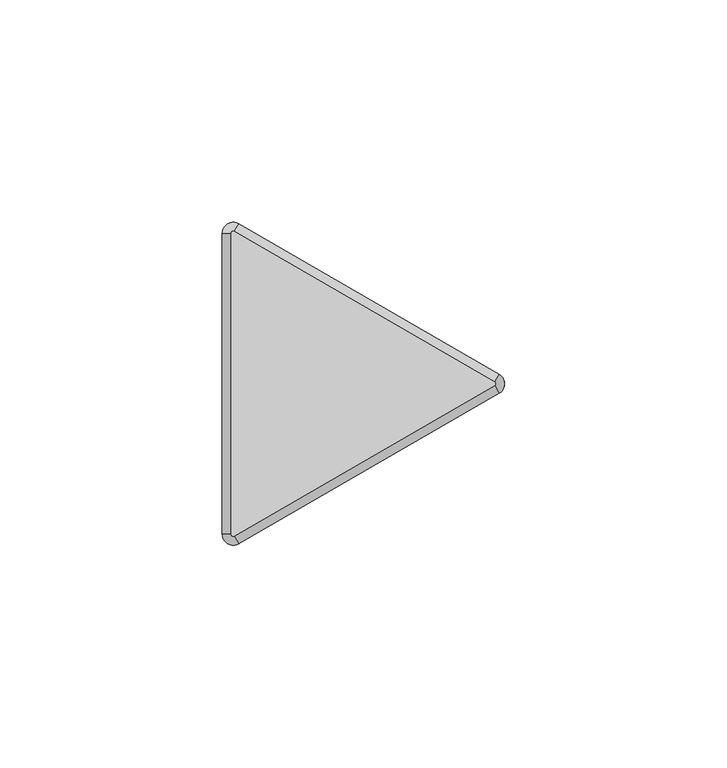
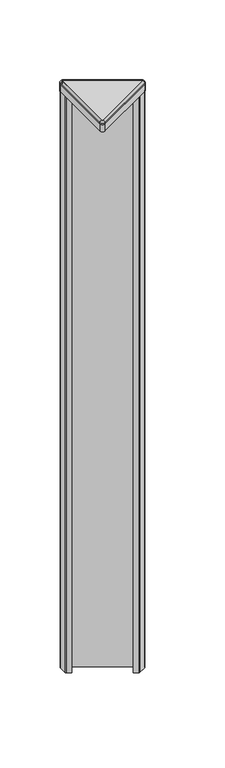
"""IFC4 building model written with IfcOpenShell, lengths in millimetres: furniture geometry, Steelcase - Answer Solution - Panel - 120deg Change-of-Height Trim - Thin : V Corner - 24H for 84H App."""

from ifc_helpers import new_model, si_unit, point, frame, frame_2d, origin, place, context, project, spatial, polyline, circle_curve, ellipse_curve, trimmed, segment, composite_curve, outline, extrude, source, transform, mapped, element, save
from ifc_brep_helpers import plane_surface, cylinder_surface, revolved_surface, advanced_brep


def furniture_e0f52351(model_context):
    return source(origin(), model_context, "Body", "SolidModel", [
        advanced_brep(
        [(-10.518645, -37.3335529, 2138.0628978), (-14.2052101, -35.2051135, 2138.0628978), (-14.2052101, -35.2051135, 2137.1164663), (-10.518645, -37.3335529, 2137.1164663), (-11.46175, -35.7000471, 2139.95), (-12.319, -35.2051135, 2139.95), (-11.46175, -35.7000471, 2137.1164663), (-12.319, -35.2051135, 2137.1164663), (48.0429908, -3.5229767, 2137.1164663), (48.0429908, -3.5229767, 2138.0628978), (47.0998858, -1.8894709, 2139.95), (47.0998858, -1.8894709, 2137.1164663), (48.0429908, 0.733902, 2138.0628978), (48.0429908, 0.733902, 2137.1164663), (47.0998858, -0.8996038, 2139.95), (47.0998858, -0.8996038, 2137.1164663), (-10.518645, 34.5444782, 2137.1164663), (-14.2052101, 32.4160388, 2137.1164663), (-11.46175, 32.9109723, 2137.1164663), (-12.319, 32.4160388, 2137.1164663), (-10.518645, 34.5444782, 2138.0628978), (-11.46175, 32.9109723, 2139.95), (-14.2052101, 32.4160388, 2138.0628978), (-12.319, 32.4160388, 2139.95)],
        [
            (0, 1, circle_curve(frame((-11.7475, -35.2051135, 2138.0628978), z_axis=(0.0, 0.0, -1.0), x_axis=(-1.0, 0.0, 0.0)), 2.4577101)),
            (1, 2),
            (2, 3, circle_curve(frame((-11.7475, -35.2051135, 2137.1164663), z_axis=(0.0, 0.0, 1.0), x_axis=(-1.0, 0.0, 0.0)), 2.4577101)),
            (3, 0),
            (4, 5, circle_curve(frame((-11.7475, -35.2051135, 2139.95), z_axis=(0.0, 0.0, -1.0), x_axis=(-1.0, 0.0, 0.0)), 0.5715)),
            (5, 1, circle_curve(frame((-12.3181076, -35.2051135, 2138.0628978), z_axis=(0.0, -1.0, 0.0), x_axis=(1.0, 0.0, 0.0)), 1.8871024)),
            (0, 4, circle_curve(frame((-11.4621962, -35.6992743, 2138.0628978), z_axis=(-0.8660254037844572, -0.49999999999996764, 0.0), x_axis=(-0.49999999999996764, 0.8660254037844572, 0.0)), 1.8871024)),
            (6, 7, circle_curve(frame((-11.7475, -35.2051135, 2137.1164663), z_axis=(0.0, 0.0, -1.0), x_axis=(-1.0, 0.0, 0.0)), 0.5715)),
            (7, 5),
            (4, 6),
            (3, 8),
            (8, 9),
            (9, 0),
            (9, 10, circle_curve(frame((47.0994396, -1.8886981, 2138.0628978), z_axis=(-0.8660254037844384, -0.5000000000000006, 0.0), x_axis=(-0.5000000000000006, 0.8660254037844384, 0.0)), 1.8871024)),
            (10, 4),
            (10, 11),
            (11, 6),
            (12, 9, circle_curve(frame((46.8141358, -1.3945374, 2138.0628978), z_axis=(0.0, 0.0, -1.0), x_axis=(0.4999999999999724, -0.8660254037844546, 0.0)), 2.4577101)),
            (8, 13, circle_curve(frame((46.8141358, -1.3945374, 2137.1164663), z_axis=(0.0, 0.0, 1.0), x_axis=(0.4999999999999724, -0.8660254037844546, 0.0)), 2.4577101)),
            (13, 12),
            (14, 10, circle_curve(frame((46.8141358, -1.3945374, 2139.95), z_axis=(0.0, 0.0, -1.0), x_axis=(0.4999999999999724, -0.8660254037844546, 0.0)), 0.5715)),
            (12, 14, circle_curve(frame((47.0994396, -0.9003766, 2138.0628978), z_axis=(0.8660254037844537, -0.49999999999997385, 0.0), x_axis=(-0.49999999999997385, -0.8660254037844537, 0.0)), 1.8871024)),
            (15, 11, circle_curve(frame((46.8141358, -1.3945374, 2137.1164663), z_axis=(0.0, 0.0, -1.0), x_axis=(0.4999999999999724, -0.8660254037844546, 0.0)), 0.5715)),
            (14, 15),
            (16, 13),
            (2, 17),
            (17, 16, circle_curve(frame((-11.7475, 32.4160388, 2137.1164663), z_axis=(0.0, 0.0, -1.0), x_axis=(0.500000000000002, 0.8660254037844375, 0.0)), 2.4577101)),
            (15, 18),
            (18, 19, circle_curve(frame((-11.7475, 32.4160388, 2137.1164663), z_axis=(0.0, 0.0, 1.0), x_axis=(0.500000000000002, 0.8660254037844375, 0.0)), 0.5715)),
            (19, 7),
            (16, 20),
            (20, 12),
            (20, 21, circle_curve(frame((-11.4621962, 32.9101995, 2138.0628978), z_axis=(0.8660254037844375, -0.5000000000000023, 0.0), x_axis=(-0.5000000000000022, -0.8660254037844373, 0.0)), 1.8871024)),
            (21, 14),
            (21, 18),
            (22, 20, circle_curve(frame((-11.7475, 32.4160388, 2138.0628978), z_axis=(0.0, 0.0, -1.0), x_axis=(0.500000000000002, 0.8660254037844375, 0.0)), 2.4577101)),
            (17, 22),
            (23, 21, circle_curve(frame((-11.7475, 32.4160388, 2139.95), z_axis=(0.0, 0.0, -1.0), x_axis=(0.500000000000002, 0.8660254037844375, 0.0)), 0.5715)),
            (22, 23, circle_curve(frame((-12.3181076, 32.4160388, 2138.0628978), z_axis=(0.0, 1.0, 0.0), x_axis=(1.0, 0.0, 0.0)), 1.8871024)),
            (23, 19),
            (1, 22),
            (5, 23),
        ],
        [
            cylinder_surface(frame((-11.7475, -35.2051135, 0.0), z_axis=(0.0, 0.0, 1.0), x_axis=(-1.0, 0.0, 0.0)), 2.4577101),
            revolved_surface(trimmed(ellipse_curve(frame((-12.3181076, -35.2051135, 2138.0628978), z_axis=(0.0, 1.0, 0.0), x_axis=(1.0, 0.0, 0.0)), 1.8871024, 1.8871024), [point((-14.2052101, -35.2051135, 2138.0628978))], [point((-12.319, -35.2051135, 2139.95))], True, "CARTESIAN"), (-11.7475, -35.2051135, 0.0), (0.0, 0.0, 1.0)),
            revolved_surface(polyline([(-12.319, -35.2051135, 2139.95), (-12.319, -35.2051135, 2137.1164663)]), (-11.7475, -35.2051135, 0.0), (0.0, 0.0, 1.0)),
            plane_surface(frame((-10.518645, -37.3335529, 2137.1164663), z_axis=(0.49999999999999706, -0.8660254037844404, 0.0), x_axis=(0.8660254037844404, 0.49999999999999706, 0.0))),
            cylinder_surface(frame((-11.4621962, -35.6992743, 2138.0628978), z_axis=(-0.8660254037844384, -0.5000000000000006, 0.0), x_axis=(-0.5000000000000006, 0.8660254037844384, 0.0)), 1.8871024),
            plane_surface(frame((-11.46175, -35.7000471, 2139.95), z_axis=(-0.500000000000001, 0.8660254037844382, 0.0), x_axis=(0.8660254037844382, 0.500000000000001, 0.0))),
            cylinder_surface(frame((46.8141358, -1.3945374, 0.0), z_axis=(0.0, 0.0, 1.0), x_axis=(0.4999999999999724, -0.8660254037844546, 0.0)), 2.4577101),
            revolved_surface(trimmed(ellipse_curve(frame((47.0994396, -1.8886981, 2138.0628978), z_axis=(-0.8660254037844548, -0.499999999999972, 0.0), x_axis=(-0.499999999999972, 0.8660254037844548, 0.0)), 1.8871024, 1.8871024), [point((48.0429908, -3.5229767, 2138.0628978))], [point((47.0998858, -1.8894709, 2139.95))], True, "CARTESIAN"), (46.8141358, -1.3945374, 0.0), (0.0, 0.0, 1.0)),
            revolved_surface(polyline([(47.09988579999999, -1.8894709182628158, 2139.95), (47.09988579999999, -1.8894709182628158, 2137.1164663)]), (46.8141358, -1.3945374, 0.0), (0.0, 0.0, 1.0)),
            plane_surface(frame((47.0998858, -0.8996038, 2137.1164663), z_axis=(0.0, 0.0, -1.0), x_axis=(-0.8660254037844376, 0.5000000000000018, 0.0))),
            plane_surface(frame((48.0429908, 0.733902, 2137.1164663), z_axis=(0.49999999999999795, 0.8660254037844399, 0.0), x_axis=(-0.8660254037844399, 0.49999999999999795, 0.0))),
            cylinder_surface(frame((47.0994396, -0.9003766, 2138.0628978), z_axis=(0.8660254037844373, -0.5000000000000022, 0.0), x_axis=(-0.5000000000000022, -0.8660254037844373, 0.0)), 1.8871024),
            plane_surface(frame((47.0998858, -0.8996038, 2139.95), z_axis=(-0.5000000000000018, -0.8660254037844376, 0.0), x_axis=(-0.8660254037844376, 0.5000000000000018, 0.0))),
            cylinder_surface(frame((-11.7475, 32.4160388, 0.0), z_axis=(0.0, 0.0, 1.0), x_axis=(0.500000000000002, 0.8660254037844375, 0.0)), 2.4577101),
            revolved_surface(trimmed(ellipse_curve(frame((-11.4621962, 32.9101995, 2138.0628978), z_axis=(0.866025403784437, -0.5000000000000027, 0.0), x_axis=(-0.5000000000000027, -0.866025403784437, 0.0)), 1.8871024, 1.8871024), [point((-10.518645, 34.5444782, 2138.0628978))], [point((-11.46175, 32.9109723, 2139.95))], True, "CARTESIAN"), (-11.7475, 32.4160388, 0.0), (0.0, 0.0, 1.0)),
            revolved_surface(polyline([(-11.461749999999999, 32.91097231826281, 2139.95), (-11.461749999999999, 32.91097231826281, 2137.1164663)]), (-11.7475, 32.4160388, 0.0), (0.0, 0.0, 1.0)),
            plane_surface(frame((-14.2052101, 32.4160388, 2137.1164663), z_axis=(-1.0, 0.0, 0.0), x_axis=(0.0, -1.0, 0.0))),
            cylinder_surface(frame((-12.3181076, 32.4160388, 2138.0628978), z_axis=(0.0, 1.0, 0.0), x_axis=(1.0, 0.0, 0.0)), 1.8871024),
            plane_surface(frame((-12.319, 32.4160388, 2139.95), z_axis=(1.0, 0.0, 0.0), x_axis=(0.0, -1.0, 0.0))),
        ],
        [
            (0, [[1, 2, 3, 4]]),
            (1, [[5, 6, -1, 7]]),
            (2, [[8, 9, -5, 10]]),
            (3, [[-4, 11, 12, 13]]),
            (4, [[-7, -13, 14, 15]]),
            (5, [[-10, -15, 16, 17]]),
            (6, [[18, -12, 19, 20]]),
            (7, [[21, -14, -18, 22]]),
            (8, [[23, -16, -21, 24]]),
            (9, [[25, -19, -11, -3, 26, 27], [-8, -17, -23, 28, 29, 30]]),
            (10, [[-20, -25, 31, 32]]),
            (11, [[-22, -32, 33, 34]]),
            (12, [[-24, -34, 35, -28]]),
            (13, [[36, -31, -27, 37]]),
            (14, [[38, -33, -36, 39]]),
            (15, [[-29, -35, -38, 40]]),
            (16, [[-37, -26, -2, 41]]),
            (17, [[-39, -41, -6, 42]]),
            (18, [[-40, -42, -9, -30]]),
        ],
    ),
        extrude(outline(composite_curve([segment(trimmed(circle_curve(frame_2d((46.8261011, -1.3945374)), 0.5655173), [point((47.1088598, -0.904785))], [point((47.1088598, -1.8842897))], False, "CARTESIAN"), True, "CONTINUOUS"), segment(polyline([(47.1088598, -1.8842897), (-11.4505119, -35.6935587)]), True, "CONTINUOUS"), segment(trimmed(circle_curve(frame_2d((-11.7400079, -35.1921369)), 0.5789921), [point((-11.4505119, -35.6935587))], [point((-12.319, -35.1921369))], False, "CARTESIAN"), True, "CONTINUOUS"), segment(polyline([(-12.319, -35.1921369), (-12.319, 32.3985888)]), True, "CONTINUOUS"), segment(trimmed(circle_curve(frame_2d((-11.7374252, 32.3985888)), 0.5815748), [point((-12.319, 32.3985888))], [point((-11.4466378, 32.9022473))], False, "CARTESIAN"), True, "CONTINUOUS"), segment(polyline([(-11.4466378, 32.9022473), (47.1088598, -0.904785)]), True, "CONTINUOUS")], self_intersect=False)), frame((0.0, 0.0, 2137.1164663), z_axis=(0.0, 0.0, 1.0), x_axis=(1.0, 0.0, 0.0)), (0.0, 0.0, 1.0), 2.8335337),
        extrude(outline(composite_curve([segment(trimmed(circle_curve(frame_2d((47.9608454, -1.3945374)), 1.2935425), [point((48.6076166, -0.2742967))], [point((48.6076166, -2.514778))], False, "CARTESIAN"), True, "CONTINUOUS"), segment(polyline([(48.6076166, -2.514778), (41.722656, -6.4898119)]), True, "CONTINUOUS"), segment(trimmed(circle_curve(frame_2d((41.0991304, -5.4098338)), 1.2470513), [point((41.722656, -6.4898119))], [point((40.4756048, -6.4898119))], False, "CARTESIAN"), True, "CONTINUOUS"), segment(polyline([(40.4756048, -6.4898119), (36.3239304, -4.0928416), (36.7811304, -3.300948), (41.0991304, -5.7939464), (47.3502407, -2.1848662)]), True, "CONTINUOUS"), segment(trimmed(circle_curve(frame_2d((46.8939441, -1.3945374)), 0.9125932), [point((47.3502407, -2.1848662))], [point((47.3502407, -0.6042085))], True, "CARTESIAN"), True, "CONTINUOUS"), segment(polyline([(47.3502407, -0.6042085), (-11.3312768, 33.2755814)]), True, "CONTINUOUS"), segment(trimmed(circle_curve(frame_2d((-11.7875179, 32.4853487)), 0.9124821), [point((-11.3312768, 33.2755814))], [point((-12.7, 32.4853487))], True, "CARTESIAN"), True, "CONTINUOUS"), segment(polyline([(-12.7, 32.4853487), (-12.7, 25.266996), (-8.382, 22.7739975), (-8.8392, 21.9821039), (-12.9583282, 24.3602837)]), True, "CONTINUOUS"), segment(trimmed(circle_curve(frame_2d((-12.3022565, 25.4966333)), 1.3121435), [point((-12.9583282, 24.3602837))], [point((-13.6144, 25.4966333))], False, "CARTESIAN"), True, "CONTINUOUS"), segment(polyline([(-13.6144, 25.4966333), (-13.6144, 33.3957138)]), True, "CONTINUOUS"), segment(trimmed(circle_curve(frame_2d((-12.3131174, 33.3957138)), 1.3012826), [point((-13.6144, 33.3957138))], [point((-11.6624761, 34.5226576))], False, "CARTESIAN"), True, "CONTINUOUS"), segment(polyline([(-11.6624761, 34.5226576), (48.6076166, -0.2742967)]), True, "CONTINUOUS")], self_intersect=False)), frame((0.0, 0.0, 1530.35), z_axis=(0.0, 0.0, 1.0), x_axis=(1.0, 0.0, 0.0)), (0.0, 0.0, 1.0), 599.44),
        extrude(outline(composite_curve([segment(trimmed(circle_curve(frame_2d((46.8140443, -1.3945374)), 2.4577558), [point((48.0429222, 0.7339416))], [point((48.0429222, -3.5230163))], False, "CARTESIAN"), True, "CONTINUOUS"), segment(polyline([(48.0429222, -3.5230163), (-10.518058, -37.333214)]), True, "CONTINUOUS"), segment(trimmed(circle_curve(frame_2d((-11.7471087, -35.2044357)), 2.4581014), [point((-10.518058, -37.333214))], [point((-14.2052101, -35.2044357))], False, "CARTESIAN"), True, "CONTINUOUS"), segment(polyline([(-14.2052101, -35.2044357), (-14.2052101, 32.4160388)]), True, "CONTINUOUS"), segment(trimmed(circle_curve(frame_2d((-11.7475, 32.4160388)), 2.4577101), [point((-14.2052101, 32.4160388))], [point((-10.518645, 34.5444782))], False, "CARTESIAN"), True, "CONTINUOUS"), segment(polyline([(-10.518645, 34.5444782), (48.0429222, 0.7339416)]), True, "CONTINUOUS")], self_intersect=False)), frame((0.0, 0.0, 2129.79), z_axis=(0.0, 0.0, 1.0), x_axis=(1.0, 0.0, 0.0)), (0.0, 0.0, 1.0), 7.3264663),
    ])


if __name__ == "__main__":
    model = new_model("IFC4")
    model_context = context("Model", 3, world=origin())
    ifc_project = project(units=[si_unit("LENGTHUNIT", "METRE", prefix="MILLI")], contexts=[model_context])
    site = spatial("IfcSite", under=ifc_project)
    building = spatial("IfcBuilding", under=site)
    placement = place(None, origin())
    furniture_shape = furniture_e0f52351(model_context)
    element("IfcFurniture", 1, ObjectType="Steelcase - Answer Solution - Panel - 120deg Change-of-Height Trim - Thin : V Corner - 24H for 84H App", at=placement, inside=building, context=model_context, shape_type="MappedRepresentation", body=[
        mapped(furniture_shape, transform((0.0, 0.0, 0.0), x_axis=(1.0, 0.0, 0.0), y_axis=(0.0, 1.0, 0.0), z_axis=(0.0, 0.0, 1.0))),
    ])
    save(model, "model.ifc")
